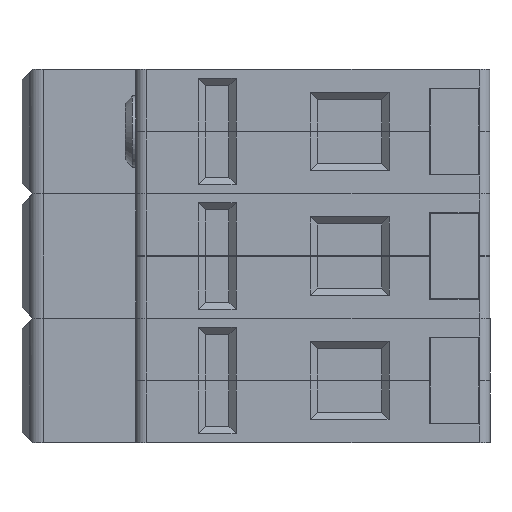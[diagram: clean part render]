
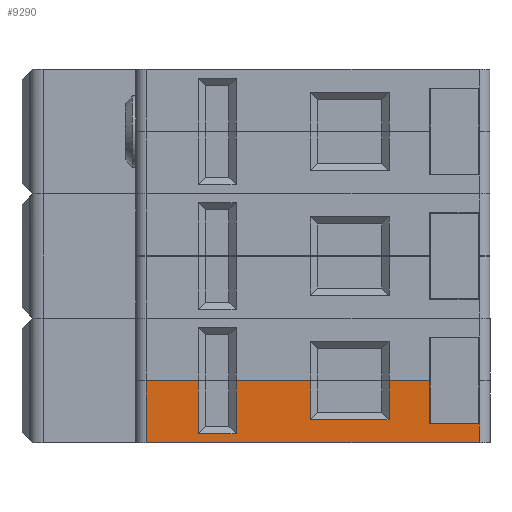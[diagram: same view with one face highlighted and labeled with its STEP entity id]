
A CAD part, left-side view. The second image highlights one B-rep face of the part: STEP entity #9290.
In plain terms, the highlighted planar face has unit normal (-1, 0, 0).
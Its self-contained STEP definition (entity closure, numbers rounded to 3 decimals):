
#623=FACE_OUTER_BOUND('',#1125,.T.);
#1125=EDGE_LOOP('',(#6650,#6651,#6652,#6653,#6654,#6655,#6656,#6657,#6658,
#6659,#6660,#6661,#6662,#6663));
#1837=LINE('',#13870,#2920);
#1843=LINE('',#13882,#2926);
#1849=LINE('',#13894,#2932);
#1857=LINE('',#13923,#2940);
#1859=LINE('',#13930,#2942);
#1878=LINE('',#13967,#2961);
#1881=LINE('',#13974,#2964);
#1900=LINE('',#14011,#2983);
#1903=LINE('',#14018,#2986);
#1904=LINE('',#14020,#2987);
#1905=LINE('',#14022,#2988);
#1906=LINE('',#14023,#2989);
#1907=LINE('',#14024,#2990);
#1908=LINE('',#14025,#2991);
#2920=VECTOR('',#11051,10.);
#2926=VECTOR('',#11057,10.);
#2932=VECTOR('',#11063,10.);
#2940=VECTOR('',#11103,10.);
#2942=VECTOR('',#11111,10.);
#2961=VECTOR('',#11146,10.);
#2964=VECTOR('',#11153,10.);
#2983=VECTOR('',#11188,10.);
#2986=VECTOR('',#11195,10.);
#2987=VECTOR('',#11196,10.);
#2988=VECTOR('',#11197,10.);
#2989=VECTOR('',#11198,10.);
#2990=VECTOR('',#11199,10.);
#2991=VECTOR('',#11200,10.);
#3967=VERTEX_POINT('',#13867);
#3968=VERTEX_POINT('',#13869);
#3973=VERTEX_POINT('',#13879);
#3974=VERTEX_POINT('',#13881);
#3979=VERTEX_POINT('',#13891);
#3980=VERTEX_POINT('',#13893);
#3985=VERTEX_POINT('',#13921);
#3987=VERTEX_POINT('',#13929);
#3997=VERTEX_POINT('',#13965);
#3999=VERTEX_POINT('',#13973);
#4009=VERTEX_POINT('',#14009);
#4011=VERTEX_POINT('',#14017);
#4012=VERTEX_POINT('',#14019);
#4013=VERTEX_POINT('',#14021);
#4946=EDGE_CURVE('',#3968,#3967,#1837,.T.);
#4952=EDGE_CURVE('',#3974,#3973,#1843,.T.);
#4958=EDGE_CURVE('',#3980,#3979,#1849,.T.);
#4973=EDGE_CURVE('',#3985,#3967,#1857,.T.);
#4976=EDGE_CURVE('',#3968,#3987,#1859,.T.);
#4995=EDGE_CURVE('',#3997,#3973,#1878,.T.);
#4998=EDGE_CURVE('',#3974,#3999,#1881,.T.);
#5017=EDGE_CURVE('',#4009,#3979,#1900,.T.);
#5020=EDGE_CURVE('',#3985,#4011,#1903,.T.);
#5021=EDGE_CURVE('',#4012,#4011,#1904,.T.);
#5022=EDGE_CURVE('',#4012,#4013,#1905,.T.);
#5023=EDGE_CURVE('',#4013,#3980,#1906,.T.);
#5024=EDGE_CURVE('',#3999,#4009,#1907,.T.);
#5025=EDGE_CURVE('',#3987,#3997,#1908,.T.);
#6650=ORIENTED_EDGE('',*,*,#4946,.T.);
#6651=ORIENTED_EDGE('',*,*,#4973,.F.);
#6652=ORIENTED_EDGE('',*,*,#5020,.T.);
#6653=ORIENTED_EDGE('',*,*,#5021,.F.);
#6654=ORIENTED_EDGE('',*,*,#5022,.T.);
#6655=ORIENTED_EDGE('',*,*,#5023,.T.);
#6656=ORIENTED_EDGE('',*,*,#4958,.T.);
#6657=ORIENTED_EDGE('',*,*,#5017,.F.);
#6658=ORIENTED_EDGE('',*,*,#5024,.F.);
#6659=ORIENTED_EDGE('',*,*,#4998,.F.);
#6660=ORIENTED_EDGE('',*,*,#4952,.T.);
#6661=ORIENTED_EDGE('',*,*,#4995,.F.);
#6662=ORIENTED_EDGE('',*,*,#5025,.F.);
#6663=ORIENTED_EDGE('',*,*,#4976,.F.);
#8902=PLANE('',#9922);
#9290=ADVANCED_FACE('',(#623),#8902,.T.);
#9922=AXIS2_PLACEMENT_3D('',#14016,#11193,#11194);
#11051=DIRECTION('',(0.,1.,0.));
#11057=DIRECTION('',(0.,1.,0.));
#11063=DIRECTION('',(0.,1.,0.));
#11103=DIRECTION('',(0.,0.,1.));
#11111=DIRECTION('',(0.,0.,-1.));
#11146=DIRECTION('',(0.,0.,1.));
#11153=DIRECTION('',(0.,0.,-1.));
#11188=DIRECTION('',(0.,0.,1.));
#11193=DIRECTION('center_axis',(-1.,0.,0.));
#11194=DIRECTION('ref_axis',(0.,-1.,0.));
#11195=DIRECTION('',(0.,-1.,0.));
#11196=DIRECTION('',(0.,0.,-1.));
#11197=DIRECTION('',(0.,1.,0.));
#11198=DIRECTION('',(0.,0.,1.));
#11199=DIRECTION('',(0.,-1.,0.));
#11200=DIRECTION('',(0.,-1.,0.));
#13867=CARTESIAN_POINT('',(-45.,12.5,8.7));
#13869=CARTESIAN_POINT('',(-45.,5.2,8.7));
#13870=CARTESIAN_POINT('',(-45.,4.197,8.7));
#13879=CARTESIAN_POINT('',(-45.,-0.1,8.7));
#13881=CARTESIAN_POINT('',(-45.,-10.6,8.7));
#13882=CARTESIAN_POINT('',(-45.,4.197,8.7));
#13891=CARTESIAN_POINT('',(-45.,-21.6,8.7));
#13893=CARTESIAN_POINT('',(-45.,-27.3,8.7));
#13894=CARTESIAN_POINT('',(-45.,4.197,8.7));
#13921=CARTESIAN_POINT('',(-45.,12.5,0.));
#13923=CARTESIAN_POINT('',(-45.,12.5,0.));
#13929=CARTESIAN_POINT('',(-45.,5.2,1.25));
#13930=CARTESIAN_POINT('',(-45.,5.2,1.125));
#13965=CARTESIAN_POINT('',(-45.,-0.1,1.25));
#13967=CARTESIAN_POINT('',(-45.,-0.1,7.625));
#13973=CARTESIAN_POINT('',(-45.,-10.6,3.25));
#13974=CARTESIAN_POINT('',(-45.,-10.6,2.125));
#14009=CARTESIAN_POINT('',(-45.,-21.6,3.25));
#14011=CARTESIAN_POINT('',(-45.,-21.6,6.625));
#14016=CARTESIAN_POINT('Origin',(-45.,14.,0.));
#14017=CARTESIAN_POINT('',(-45.,-34.3,0.));
#14018=CARTESIAN_POINT('',(-45.,14.,0.));
#14019=CARTESIAN_POINT('',(-45.,-34.3,2.64));
#14020=CARTESIAN_POINT('',(-45.,-34.3,0.));
#14021=CARTESIAN_POINT('',(-45.,-27.3,2.64));
#14022=CARTESIAN_POINT('',(-45.,-10.15,2.64));
#14023=CARTESIAN_POINT('',(-45.,-27.3,1.32));
#14024=CARTESIAN_POINT('',(-45.,-3.3,3.25));
#14025=CARTESIAN_POINT('',(-45.,7.45,1.25));
